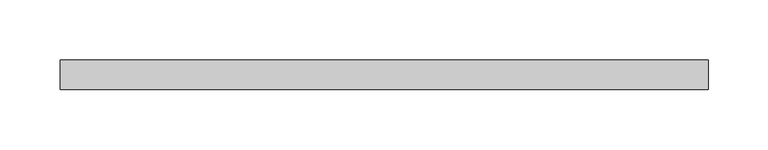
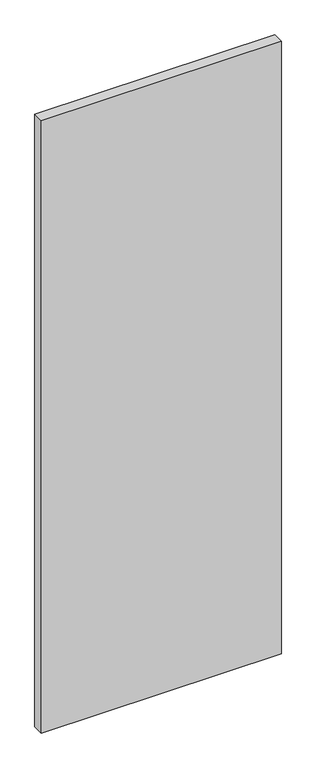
"""IFC4 building model written with IfcOpenShell, lengths in millimetres: plate geometry, 系统嵌板 : 玻璃."""

from ifc_helpers import new_model, si_unit, origin, origin_with_axes, place, context, project, spatial, polyline, outline, extrude, source, transform, mapped, element, save


def plate_989e9b30(model_context):
    return source(origin(), model_context, "Body", "SweptSolid", [
        extrude(outline(polyline([(270.0, -12.5), (-270.0, -12.5), (-270.0, 12.5), (270.0, 12.5), (270.0, -12.5)])), origin_with_axes(), (0.0, 0.0, 1.0), 1455.0),
    ])


if __name__ == "__main__":
    model = new_model("IFC4")
    model_context = context("Model", 3, world=origin())
    ifc_project = project(units=[si_unit("LENGTHUNIT", "METRE", prefix="MILLI")], contexts=[model_context])
    site = spatial("IfcSite", under=ifc_project)
    building = spatial("IfcBuilding", under=site)
    placement = place(None, origin())
    plate_shape = plate_989e9b30(model_context)
    element("IfcPlate", 1, ObjectType="系统嵌板 : 玻璃", at=placement, inside=building, context=model_context, shape_type="MappedRepresentation", body=[
        mapped(plate_shape, transform((0.0, 0.0, 0.0), x_axis=(1.0, 0.0, 0.0), y_axis=(0.0, 1.0, 0.0), z_axis=(0.0, 0.0, 1.0))),
    ])
    save(model, "model.ifc")
